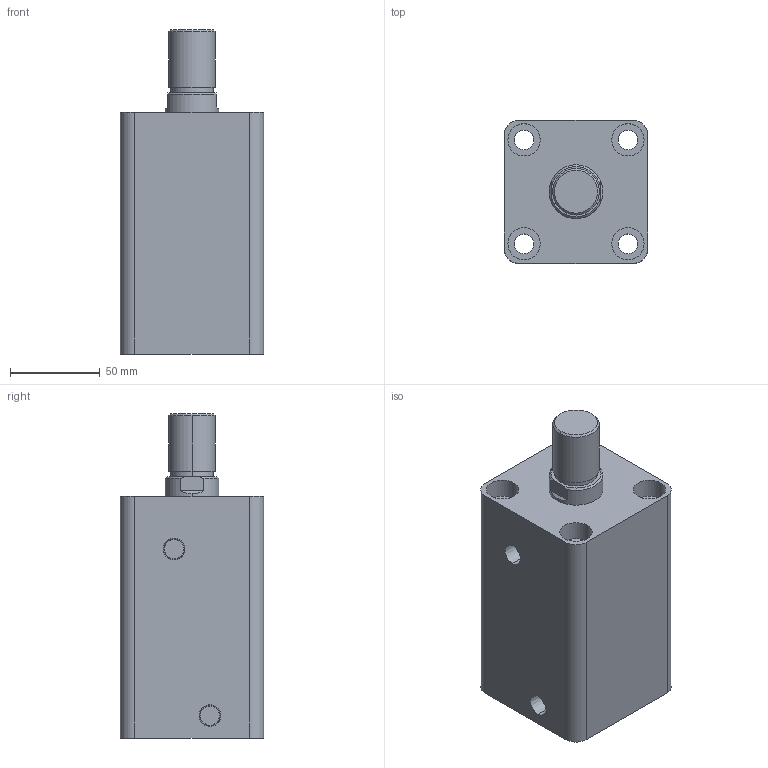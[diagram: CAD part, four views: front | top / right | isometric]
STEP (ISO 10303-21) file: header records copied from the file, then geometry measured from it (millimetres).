
FILE_DESCRIPTION (( 'STEP AP203' ), '1' );
FILE_NAME ('HTB-SD50-75W.STEP', '2019-10-07T07:13:43', ( '微软用户' ), ( '微软中国' ), 'SwSTEP 2.0', 'SolidWorks 2012', '' );
FILE_SCHEMA (( 'CONFIG_CONTROL_DESIGN' ));
Length unit declared in the file: millimetre
Products named in the file (3): HTB-SD50-75W; HTB-SD50-75W活塞杆; HTB-SD50-75掛极
Assembly tree (2 placements, depth 2):
  HTB-SD50-75W
    HTB-SD50-75掛极
    HTB-SD50-75W活塞杆
Bounding box: 80 x 80 x 181 mm (x, y, z)
Volume: 720392 mm3; surface area: 115700 mm2
Topology: 2 solids, 2 shells, 87 faces, 190 edges, 124 vertices
Faces by surface type: cylinder 44, plane 29, cone 8, torus 6
Entity records: 2761 total; most frequent: DIRECTION 478, CARTESIAN_POINT 434, ORIENTED_EDGE 380, AXIS2_PLACEMENT_3D 204, EDGE_CURVE 190, VERTEX_POINT 124, CIRCLE 112, EDGE_LOOP 112
